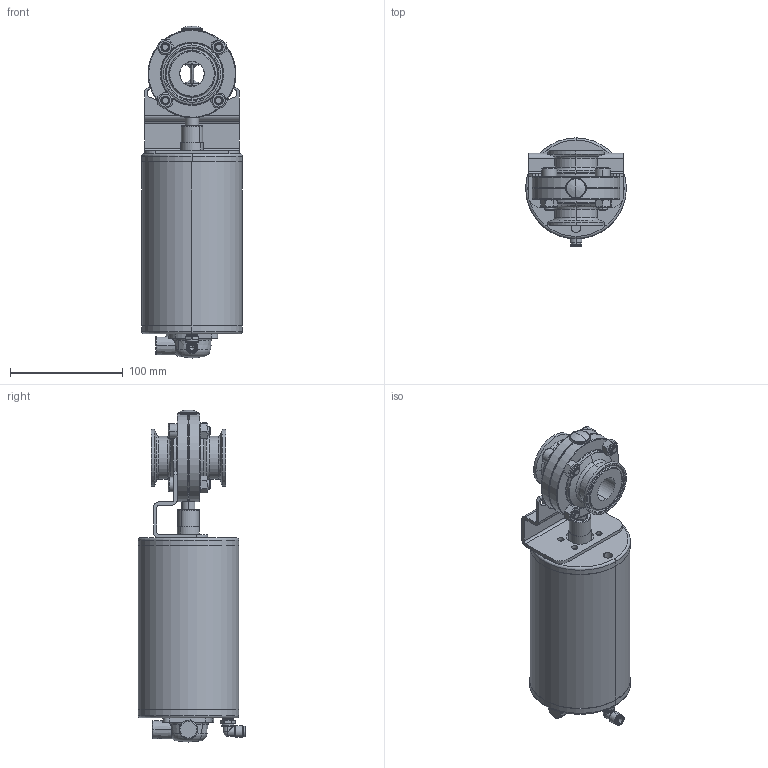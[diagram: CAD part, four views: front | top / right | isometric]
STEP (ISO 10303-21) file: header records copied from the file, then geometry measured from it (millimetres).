
FILE_DESCRIPTION (( 'STEP AP214' ), '1' );
FILE_NAME ('51C1.0AE_VBAC-XX.STEP', '2025-11-06T18:54:45', ( '' ), ( '' ), 'SwSTEP 2.0', 'SolidWorks 2023', '' );
FILE_SCHEMA (( 'AUTOMOTIVE_DESIGN' ));
Length unit declared in the file: inch
Products named in the file (16): 1 inch clamped butterfly valve without handle.STEP; Fitting 1_8-6 angle_hex12.dwg; ACT-VBA 520-00057; _X2_87BA4E1D_X0_.STEP; _X2_9600677F_X0_.STEP; AWH upper indicator kit for CD.dwg; _X2_5BC65C015708_X0_.STEP; ACT-VBA 520-00057.dwg; ACT-VBA.dwg; _X2_5835585E_X0_.STEP; Transparent cap.dwg; 51-BVP-VBA-BRACKET-1.0-2.5 520-00054; _X2_87769600_X0_.STEP; 1 inch clamped butterfly valve without handle; 51C1.0AE_VBAC-XX; VB--------VNEM1-CD.dwg
Assembly tree (19 placements, depth 5):
  51C1.0AE_VBAC-XX
    1 inch clamped butterfly valve without handle
      1 inch clamped butterfly valve without handle.STEP
        _X2_87769600_X0_.STEP  x2
        _X2_9600677F_X0_.STEP
        _X2_5BC65C015708_X0_.STEP
        _X2_5835585E_X0_.STEP
        _X2_87BA4E1D_X0_.STEP  x4
    51-BVP-VBA-BRACKET-1.0-2.5 520-00054
    ACT-VBA 520-00057
      ACT-VBA.dwg
        ACT-VBA 520-00057.dwg
          VB--------VNEM1-CD.dwg
          Fitting 1_8-6 angle_hex12.dwg
          AWH upper indicator kit for CD.dwg
          Transparent cap.dwg
Bounding box: 89.4 x 95.7 x 294.57 mm (x, y, z)
Volume: 1193055.2 mm3; surface area: 159867.8 mm2
Topology: 25 solids, 37 shells, 1171 faces, 2970 edges, 1864 vertices
Faces by surface type: cylinder 431, plane 329, cone 187, bspline 172, torus 48, sphere 4
Entity records: 44613 total; most frequent: CARTESIAN_POINT 21884, ORIENTED_EDGE 4777, DIRECTION 4532, EDGE_CURVE 2433, AXIS2_PLACEMENT_3D 1871, VERTEX_POINT 1551, EDGE_LOOP 1031, CIRCLE 1025
